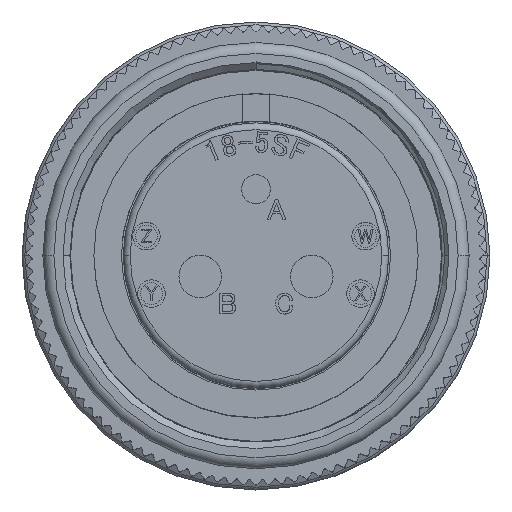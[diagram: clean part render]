
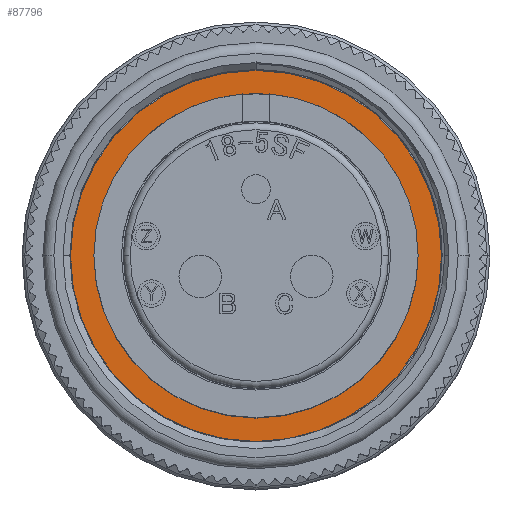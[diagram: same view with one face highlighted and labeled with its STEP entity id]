
A CAD part, top view. The second image highlights one B-rep face of the part: STEP entity #87796.
In plain terms, the highlighted planar face has unit normal (0, 0, 1).
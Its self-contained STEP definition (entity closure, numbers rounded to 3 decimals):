
#854 = FACE_BOUND ( 'NONE', #85294, .T. ) ;
#3093 = CARTESIAN_POINT ( 'NONE',  ( 0., 0., -18.25 ) ) ;
#11212 = DIRECTION ( 'NONE',  ( 1., 0., 0. ) ) ;
#16409 = CARTESIAN_POINT ( 'NONE',  ( 0., 11.81, -18.25 ) ) ;
#17385 = CIRCLE ( 'NONE', #30358, 13.51 ) ;
#22279 = FACE_OUTER_BOUND ( 'NONE', #33917, .T. ) ;
#22399 = CARTESIAN_POINT ( 'NONE',  ( 13.51, 0., -18.25 ) ) ;
#30358 = AXIS2_PLACEMENT_3D ( 'NONE', #3093, #59414, #11212 ) ;
#32123 = DIRECTION ( 'NONE',  ( 0., 0., 1. ) ) ;
#33917 = EDGE_LOOP ( 'NONE', ( #71839, #47411 ) ) ;
#33990 = EDGE_CURVE ( 'NONE', #101601, #56356, #17385, .T. ) ;
#36891 = EDGE_CURVE ( 'NONE', #65330, #55872, #83970, .T. ) ;
#40602 = DIRECTION ( 'NONE',  ( -1., 0., 0. ) ) ;
#40884 = EDGE_CURVE ( 'NONE', #55872, #65330, #69510, .T. ) ;
#42481 = CARTESIAN_POINT ( 'NONE',  ( 0., 0., -18.25 ) ) ;
#47015 = CARTESIAN_POINT ( 'NONE',  ( 0., 0., -18.25 ) ) ;
#47049 = ORIENTED_EDGE ( 'NONE', *, *, #36891, .F. ) ;
#47411 = ORIENTED_EDGE ( 'NONE', *, *, #33990, .T. ) ;
#48157 = EDGE_CURVE ( 'NONE', #56356, #101601, #48186, .T. ) ;
#48186 = CIRCLE ( 'NONE', #54918, 13.51 ) ;
#50601 = DIRECTION ( 'NONE',  ( 1., 0., 0. ) ) ;
#54918 = AXIS2_PLACEMENT_3D ( 'NONE', #42481, #98780, #50601 ) ;
#55181 = DIRECTION ( 'NONE',  ( 1., 0., 0. ) ) ;
#55872 = VERTEX_POINT ( 'NONE', #64413 ) ;
#56356 = VERTEX_POINT ( 'NONE', #22399 ) ;
#59414 = DIRECTION ( 'NONE',  ( 0., 0., 1. ) ) ;
#60814 = CARTESIAN_POINT ( 'NONE',  ( -13.51, 0., -18.25 ) ) ;
#64413 = CARTESIAN_POINT ( 'NONE',  ( 11.81, 0., -18.25 ) ) ;
#65330 = VERTEX_POINT ( 'NONE', #91671 ) ;
#69510 = CIRCLE ( 'NONE', #79405, 11.81 ) ;
#71839 = ORIENTED_EDGE ( 'NONE', *, *, #48157, .T. ) ;
#72691 = PLANE ( 'NONE',  #100314 ) ;
#73753 = ORIENTED_EDGE ( 'NONE', *, *, #40884, .F. ) ;
#79405 = AXIS2_PLACEMENT_3D ( 'NONE', #80315, #32123, #88379 ) ;
#80315 = CARTESIAN_POINT ( 'NONE',  ( 0., 0., -18.25 ) ) ;
#83970 = CIRCLE ( 'NONE', #87813, 11.81 ) ;
#85294 = EDGE_LOOP ( 'NONE', ( #73753, #47049 ) ) ;
#87796 = ADVANCED_FACE ( 'NONE', ( #854, #22279 ), #72691, .F. ) ;
#87813 = AXIS2_PLACEMENT_3D ( 'NONE', #47015, #103293, #55181 ) ;
#88379 = DIRECTION ( 'NONE',  ( 1., 0., 0. ) ) ;
#88794 = DIRECTION ( 'NONE',  ( 0., 0., -1. ) ) ;
#91671 = CARTESIAN_POINT ( 'NONE',  ( -11.81, 0., -18.25 ) ) ;
#98780 = DIRECTION ( 'NONE',  ( 0., 0., 1. ) ) ;
#100314 = AXIS2_PLACEMENT_3D ( 'NONE', #16409, #88794, #40602 ) ;
#101601 = VERTEX_POINT ( 'NONE', #60814 ) ;
#103293 = DIRECTION ( 'NONE',  ( 0., 0., 1. ) ) ;
